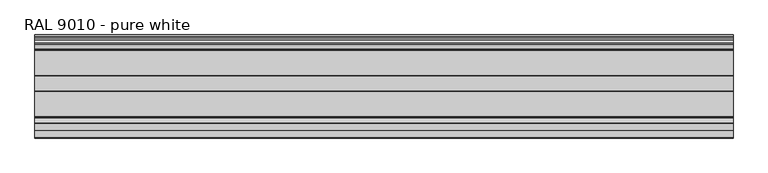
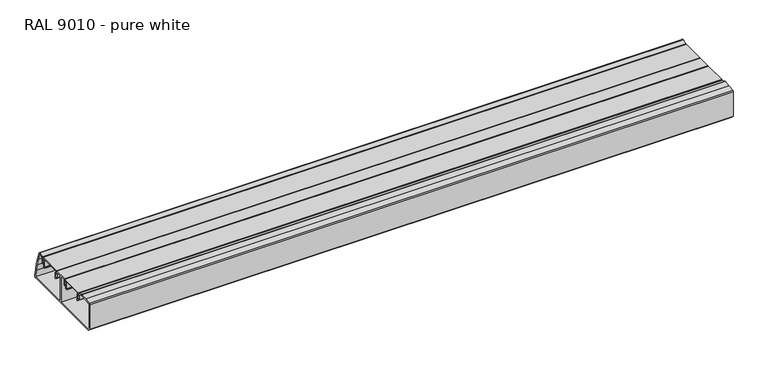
"""IFC4 building model written with IfcOpenShell, lengths in millimetres: proxy geometry, Electrical_Installations_Hager_GBD-Curved-Lid-End-Cap : RAL 9010 - pure white."""

from ifc_helpers import new_model, si_unit, point, frame, frame_2d, origin, place, context, project, spatial, polyline, circle_curve, trimmed, segment, composite_curve, outline, extrude, source, transform, mapped, element, save


def ral_9010_pure_white_26801523(model_context):
    return source(origin(), model_context, "Body", "SweptSolid", [
        extrude(outline(composite_curve([segment(polyline([(85.2368553, -25.0), (83.2276507, -11.1376133), (80.4325779, 1.9421659), (76.7464574, 14.7971958), (72.1420805, 27.6333088), (64.55, 25.1664923), (64.55, 14.96875), (60.25, 14.96875), (60.25, 18.7177382), (61.25, 18.7177382), (61.25, 16.3), (62.90625, 16.3), (62.90625, 26.286928)]), True, "CONTINUOUS"), segment(trimmed(circle_curve(frame_2d((63.9575866, 26.286928)), 1.0513366), [point((62.90625, 26.286928))], [point((63.6327057, 27.2868085))], False, "CARTESIAN"), True, "CONTINUOUS"), segment(polyline([(63.6327057, 27.2868085), (71.641154, 29.8889111)]), True, "CONTINUOUS"), segment(trimmed(circle_curve(frame_2d((72.2816269, 27.9177383)), 2.0726137), [point((71.641154, 29.8889111))], [point((74.2325269, 28.6175358))], False, "CARTESIAN"), True, "CONTINUOUS"), segment(polyline([(74.2325269, 28.6175358), (78.9366987, 15.5032139), (82.665273, 2.5001298), (85.4928777, -10.7318848), (87.5045544, -24.6113283)]), True, "CONTINUOUS"), segment(trimmed(circle_curve(frame_2d((85.4371356, -24.9109785)), 2.0890215), [point((87.5045544, -24.6113283))], [point((85.4371356, -27.0))], False, "CARTESIAN"), True, "CONTINUOUS"), segment(polyline([(85.4371356, -27.0), (-82.5, -27.0), (-87.5, -22.0), (-87.5, 25.3187476)]), True, "CONTINUOUS"), segment(trimmed(circle_curve(frame_2d((-85.4630616, 25.3187476)), 2.0369384), [point((-87.5, 25.3187476))], [point((-85.7542621, 27.3347636))], False, "CARTESIAN"), True, "CONTINUOUS"), segment(polyline([(-85.7542621, 27.3347636), (-73.960524, 29.0382932), (-62.0324399, 29.9984823)]), True, "CONTINUOUS"), segment(trimmed(circle_curve(frame_2d((-61.8535718, 27.776468)), 2.229202), [point((-62.0324399, 29.9984823))], [point((-61.1647105, 29.896565))], False, "CARTESIAN"), True, "CONTINUOUS"), segment(polyline([(-61.1647105, 29.896565), (-52.94393, 27.2254715)]), True, "CONTINUOUS"), segment(trimmed(circle_curve(frame_2d((-53.2542649, 26.2703589)), 1.0042649), [point((-52.94393, 27.2254715))], [point((-52.25, 26.2703589))], False, "CARTESIAN"), True, "CONTINUOUS"), segment(polyline([(-52.25, 26.2703589), (-52.25, 16.3), (-50.75, 16.3), (-50.75, 18.7391101), (-49.75, 18.7391101), (-49.75, 14.5), (-54.05, 14.5), (-54.05, 25.1664923), (-61.8792753, 27.7103781), (-73.4084992, 26.7822965), (-85.2, 25.0790901), (-85.2, -21.0473088), (-81.2473088, -25.0), (4.25, -25.0), (4.25, 25.0), (-5.45, 25.0), (-5.45, 14.5), (-9.75, 14.5), (-9.75, 18.7441115), (-8.75, 18.7441115), (-8.75, 16.3), (-7.25, 16.3), (-7.25, 27.0), (17.75, 27.0), (17.75, 16.3), (19.25, 16.3), (19.25, 18.7637258), (20.25, 18.7637258), (20.25, 14.96875), (15.95, 14.96875), (15.95, 25.0), (6.25, 25.0), (6.25, -25.0), (85.2368553, -25.0)]), True, "CONTINUOUS")], self_intersect=False)), frame((0.0, 0.0, 0.0), z_axis=(1.0, 0.0, 0.0), x_axis=(0.0, 1.0, 0.0)), (0.0, 0.0, 1.0), 1185.0),
        extrude(outline(composite_curve([segment(polyline([(19.317297, 25.7013932), (19.317297, 22.4013932), (22.767297, 22.4013932), (22.767297, 10.8013932), (24.667297, 10.8013932), (24.667297, 10.0013932), (21.767297, 10.0013932), (21.767297, 21.4013932), (19.0141556, 21.4013932), (19.0141556, 17.0930522), (18.129797, 17.0930522), (18.129797, 26.1115683)]), True, "CONTINUOUS"), segment(trimmed(circle_curve(frame_2d((19.1379774, 26.1115683)), 1.0081804), [point((18.129797, 26.1115683))], [point((19.1379774, 27.1197487))], False, "CARTESIAN"), True, "CONTINUOUS"), segment(polyline([(19.1379774, 27.1197487), (61.6120226, 27.1197487)]), True, "CONTINUOUS"), segment(trimmed(circle_curve(frame_2d((61.6120226, 26.2097868)), 0.9099619), [point((61.6120226, 27.1197487))], [point((62.5219845, 26.2097868))], False, "CARTESIAN"), True, "CONTINUOUS"), segment(polyline([(62.5219845, 26.2097868), (62.5219845, 17.0930522), (61.5204385, 17.0930522), (61.5204385, 21.4013932), (58.767297, 21.4013932), (58.767297, 10.0013932), (55.867297, 10.0013932), (55.867297, 10.8013932), (57.767297, 10.8013932), (57.767297, 22.4013932), (61.217297, 22.4013932), (61.217297, 25.7013932), (19.317297, 25.7013932)]), True, "CONTINUOUS")], self_intersect=False)), frame((0.0, 0.0, 0.0), z_axis=(1.0, 0.0, 0.0), x_axis=(0.0, 1.0, 0.0)), (0.0, 0.0, 1.0), 1185.0),
        extrude(outline(composite_curve([segment(polyline([(-50.7405963, 25.7013932), (-50.7405963, 22.4013932), (-47.2905963, 22.4013932), (-47.2905963, 10.8013932), (-45.3905963, 10.8013932), (-45.3905963, 10.0013932), (-48.2905963, 10.0013932), (-48.2905963, 21.4013932), (-51.0437378, 21.4013932), (-51.0437378, 17.0930522), (-51.9280963, 17.0930522), (-51.9280963, 26.1115683)]), True, "CONTINUOUS"), segment(trimmed(circle_curve(frame_2d((-50.9199159, 26.1115683)), 1.0081804), [point((-51.9280963, 26.1115683))], [point((-50.9199159, 27.1197487))], False, "CARTESIAN"), True, "CONTINUOUS"), segment(polyline([(-50.9199159, 27.1197487), (-8.4458707, 27.1197487)]), True, "CONTINUOUS"), segment(trimmed(circle_curve(frame_2d((-8.4458707, 26.2097868)), 0.9099619), [point((-8.4458707, 27.1197487))], [point((-7.5359088, 26.2097868))], False, "CARTESIAN"), True, "CONTINUOUS"), segment(polyline([(-7.5359088, 26.2097868), (-7.5359088, 17.0930522), (-8.5374548, 17.0930522), (-8.5374548, 21.4013932), (-11.2905963, 21.4013932), (-11.2905963, 10.0013932), (-14.1905963, 10.0013932), (-14.1905963, 10.8013932), (-12.2905963, 10.8013932), (-12.2905963, 22.4013932), (-8.8405963, 22.4013932), (-8.8405963, 25.7013932), (-50.7405963, 25.7013932)]), True, "CONTINUOUS")], self_intersect=False)), frame((0.0, 0.0, 0.0), z_axis=(1.0, 0.0, 0.0), x_axis=(0.0, 1.0, 0.0)), (0.0, 0.0, 1.0), 1185.0),
    ])


if __name__ == "__main__":
    model = new_model("IFC4")
    model_context = context("Model", 3, world=origin())
    ifc_project = project(units=[si_unit("LENGTHUNIT", "METRE", prefix="MILLI")], contexts=[model_context])
    site = spatial("IfcSite", under=ifc_project)
    building = spatial("IfcBuilding", under=site)
    placement = place(None, origin())
    ral_9010_pure_white_shape = ral_9010_pure_white_26801523(model_context)
    element("IfcBuildingElementProxy", 1, Name="Electrical_Installations_Hager_GBD-Curved-Lid-End-Cap : RAL 9010 - pure white", ObjectType="Electrical_Installations_Hager_GBD-Curved-Lid-End-Cap : RAL 9010 - pure white", at=placement, inside=building, context=model_context, shape_type="MappedRepresentation", body=[
        mapped(ral_9010_pure_white_shape, transform((0.0, 0.0, 0.0), x_axis=(1.0, 0.0, 0.0), y_axis=(0.0, 1.0, 0.0), z_axis=(0.0, 0.0, 1.0))),
    ])
    save(model, "model.ifc")
